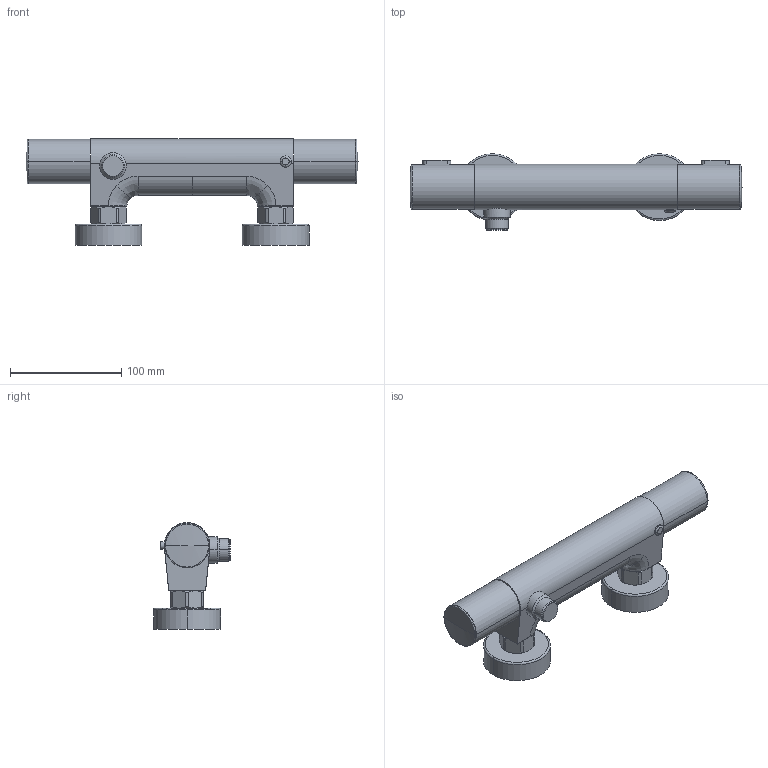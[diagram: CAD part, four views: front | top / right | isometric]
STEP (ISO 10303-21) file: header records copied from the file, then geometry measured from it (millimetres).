
FILE_DESCRIPTION((''),'2;1');
FILE_NAME('26009030','2021-06-09T11:32:25',('SN986'),(''),'CREO PARAMETRIC BY PTC INC, 2018500','CREO PARAMETRIC BY PTC INC, 2018500','');
FILE_SCHEMA(('CONFIG_CONTROL_DESIGN'));
Length unit declared in the file: millimetre
Products named in the file (1): 26009030
Bounding box: 297.9 x 68.7 x 95.7 mm (x, y, z)
Volume: 618578.7 mm3; surface area: 76009.8 mm2
Topology: 5 solids, 5 shells, 145 faces, 352 edges, 219 vertices
Faces by surface type: cylinder 45, plane 38, cone 30, torus 16, bspline 12, sphere 4
Entity records: 6002 total; most frequent: CARTESIAN_POINT 2688, ORIENTED_EDGE 696, DIRECTION 672, EDGE_CURVE 348, AXIS2_PLACEMENT_3D 287, VERTEX_POINT 219, CIRCLE 154, EDGE_LOOP 151
